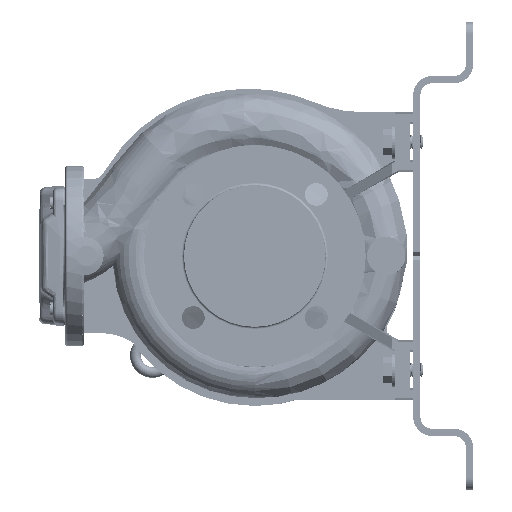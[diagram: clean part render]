
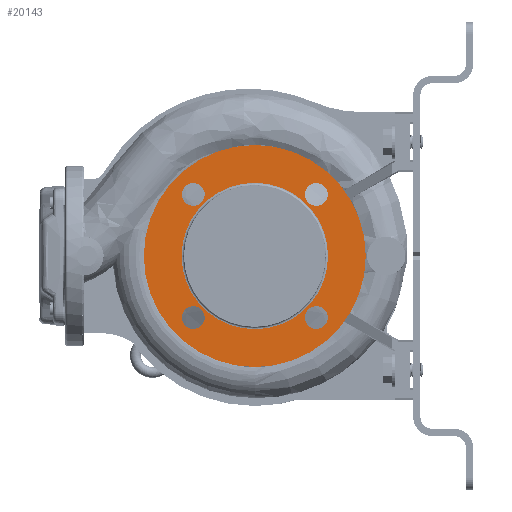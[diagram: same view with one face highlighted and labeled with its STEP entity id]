
A CAD part, left-side view. The second image highlights one B-rep face of the part: STEP entity #20143.
In plain terms, the highlighted planar face has unit normal (-1, 0, 0).
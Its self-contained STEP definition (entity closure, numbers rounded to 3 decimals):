
#2887 = CARTESIAN_POINT ( 'NONE',  ( -40.899, 68.322, 292.077 ) ) ;
#2975 = CIRCLE ( 'NONE', #170492, 9.5 ) ;
#3619 = CARTESIAN_POINT ( 'NONE',  ( -40.899, 170.852, 189.547 ) ) ;
#6053 = DIRECTION ( 'NONE',  ( 0., -1., 0. ) ) ;
#6591 = EDGE_CURVE ( 'NONE', #164121, #173780, #100389, .T. ) ;
#8356 = DIRECTION ( 'NONE',  ( 0., -1., 0. ) ) ;
#8513 = FACE_BOUND ( 'NONE', #196247, .T. ) ;
#10093 = AXIS2_PLACEMENT_3D ( 'NONE', #25578, #79040, #159918 ) ;
#12108 = VERTEX_POINT ( 'NONE', #113247 ) ;
#13082 = CARTESIAN_POINT ( 'NONE',  ( -40.899, 180.587, 240.812 ) ) ;
#14852 = CARTESIAN_POINT ( 'NONE',  ( -40.899, 58.822, 189.547 ) ) ;
#15524 = VERTEX_POINT ( 'NONE', #35803 ) ;
#16034 = CARTESIAN_POINT ( 'NONE',  ( -40.899, 77.822, 189.547 ) ) ;
#16410 = CIRCLE ( 'NONE', #121039, 9.5 ) ;
#20143 = ADVANCED_FACE ( 'NONE', ( #189915, #25976, #92604, #59826, #8513, #40244 ), #90457, .F. ) ;
#20319 = VERTEX_POINT ( 'NONE', #33525 ) ;
#20421 = AXIS2_PLACEMENT_3D ( 'NONE', #174432, #24736, #8356 ) ;
#22310 = CARTESIAN_POINT ( 'NONE',  ( -40.899, 119.587, 240.812 ) ) ;
#24736 = DIRECTION ( 'NONE',  ( -1., 0., 0. ) ) ;
#25578 = CARTESIAN_POINT ( 'NONE',  ( -40.899, 170.852, 189.547 ) ) ;
#25976 = FACE_BOUND ( 'NONE', #98166, .T. ) ;
#28773 = CIRCLE ( 'NONE', #109042, 9.5 ) ;
#31329 = AXIS2_PLACEMENT_3D ( 'NONE', #64214, #130829, #114455 ) ;
#31949 = EDGE_CURVE ( 'NONE', #173780, #164121, #215916, .T. ) ;
#33525 = CARTESIAN_POINT ( 'NONE',  ( -40.899, 180.352, 292.077 ) ) ;
#34694 = EDGE_CURVE ( 'NONE', #35746, #181902, #132286, .T. ) ;
#35746 = VERTEX_POINT ( 'NONE', #77346 ) ;
#35803 = CARTESIAN_POINT ( 'NONE',  ( -40.899, 212.087, 240.812 ) ) ;
#36400 = ORIENTED_EDGE ( 'NONE', *, *, #135770, .T. ) ;
#37444 = EDGE_CURVE ( 'NONE', #44742, #78667, #2975, .T. ) ;
#39820 = CARTESIAN_POINT ( 'NONE',  ( -40.899, 68.322, 189.547 ) ) ;
#40244 = FACE_OUTER_BOUND ( 'NONE', #123980, .T. ) ;
#42548 = CIRCLE ( 'NONE', #196068, 61. ) ;
#42620 = VERTEX_POINT ( 'NONE', #84342 ) ;
#43445 = DIRECTION ( 'NONE',  ( 1., 0., 0. ) ) ;
#44742 = VERTEX_POINT ( 'NONE', #16034 ) ;
#48774 = CIRCLE ( 'NONE', #80234, 9.5 ) ;
#51209 = EDGE_CURVE ( 'NONE', #113506, #12108, #28773, .T. ) ;
#51932 = EDGE_CURVE ( 'NONE', #20319, #42620, #189417, .T. ) ;
#51948 = AXIS2_PLACEMENT_3D ( 'NONE', #179932, #43445, #164619 ) ;
#53253 = DIRECTION ( 'NONE',  ( 0., -1., 0. ) ) ;
#57222 = CARTESIAN_POINT ( 'NONE',  ( -40.899, 161.352, 189.547 ) ) ;
#58756 = CIRCLE ( 'NONE', #20421, 92.5 ) ;
#59826 = FACE_BOUND ( 'NONE', #97763, .T. ) ;
#61109 = CARTESIAN_POINT ( 'NONE',  ( -40.899, 180.352, 189.547 ) ) ;
#64214 = CARTESIAN_POINT ( 'NONE',  ( -40.899, 119.587, 240.812 ) ) ;
#65212 = CARTESIAN_POINT ( 'NONE',  ( -40.899, 68.322, 292.077 ) ) ;
#69402 = CARTESIAN_POINT ( 'NONE',  ( -40.899, 68.322, 189.547 ) ) ;
#70501 = DIRECTION ( 'NONE',  ( -1., 0., 0. ) ) ;
#72581 = EDGE_CURVE ( 'NONE', #78667, #44742, #16410, .T. ) ;
#72646 = DIRECTION ( 'NONE',  ( 0., 1., 0. ) ) ;
#73865 = DIRECTION ( 'NONE',  ( -1., 0., 0. ) ) ;
#76084 = AXIS2_PLACEMENT_3D ( 'NONE', #3619, #157595, #104110 ) ;
#77346 = CARTESIAN_POINT ( 'NONE',  ( -40.899, 58.587, 240.812 ) ) ;
#78341 = AXIS2_PLACEMENT_3D ( 'NONE', #65212, #80532, #79446 ) ;
#78667 = VERTEX_POINT ( 'NONE', #14852 ) ;
#79040 = DIRECTION ( 'NONE',  ( -1., 0., 0. ) ) ;
#79446 = DIRECTION ( 'NONE',  ( 0., 0., -1. ) ) ;
#80069 = CIRCLE ( 'NONE', #31329, 92.5 ) ;
#80234 = AXIS2_PLACEMENT_3D ( 'NONE', #102250, #89070, #6053 ) ;
#80532 = DIRECTION ( 'NONE',  ( -1., 0., 0. ) ) ;
#81678 = ORIENTED_EDGE ( 'NONE', *, *, #31949, .F. ) ;
#82696 = ORIENTED_EDGE ( 'NONE', *, *, #37444, .F. ) ;
#84342 = CARTESIAN_POINT ( 'NONE',  ( -40.899, 161.352, 292.077 ) ) ;
#84890 = ORIENTED_EDGE ( 'NONE', *, *, #120843, .F. ) ;
#85410 = ORIENTED_EDGE ( 'NONE', *, *, #51932, .F. ) ;
#89070 = DIRECTION ( 'NONE',  ( -1., 0., 0. ) ) ;
#90457 = PLANE ( 'NONE',  #51948 ) ;
#92058 = ORIENTED_EDGE ( 'NONE', *, *, #214286, .F. ) ;
#92604 = FACE_BOUND ( 'NONE', #198322, .T. ) ;
#97763 = EDGE_LOOP ( 'NONE', ( #92058, #85410 ) ) ;
#98166 = EDGE_LOOP ( 'NONE', ( #134515, #82696 ) ) ;
#100389 = CIRCLE ( 'NONE', #76084, 9.5 ) ;
#102250 = CARTESIAN_POINT ( 'NONE',  ( -40.899, 170.852, 292.077 ) ) ;
#104110 = DIRECTION ( 'NONE',  ( 0., 0., 1. ) ) ;
#105989 = VERTEX_POINT ( 'NONE', #157955 ) ;
#107500 = DIRECTION ( 'NONE',  ( -1., 0., 0. ) ) ;
#109042 = AXIS2_PLACEMENT_3D ( 'NONE', #2887, #73865, #186494 ) ;
#113247 = CARTESIAN_POINT ( 'NONE',  ( -40.899, 77.822, 292.077 ) ) ;
#113506 = VERTEX_POINT ( 'NONE', #163643 ) ;
#113549 = EDGE_CURVE ( 'NONE', #105989, #15524, #80069, .T. ) ;
#114455 = DIRECTION ( 'NONE',  ( 0., -1., 0. ) ) ;
#115714 = ORIENTED_EDGE ( 'NONE', *, *, #51209, .F. ) ;
#116368 = ORIENTED_EDGE ( 'NONE', *, *, #6591, .F. ) ;
#120843 = EDGE_CURVE ( 'NONE', #12108, #113506, #172556, .T. ) ;
#121039 = AXIS2_PLACEMENT_3D ( 'NONE', #69402, #70501, #72646 ) ;
#123056 = AXIS2_PLACEMENT_3D ( 'NONE', #131311, #133483, #196992 ) ;
#123980 = EDGE_LOOP ( 'NONE', ( #151216, #36400 ) ) ;
#130829 = DIRECTION ( 'NONE',  ( -1., 0., 0. ) ) ;
#131311 = CARTESIAN_POINT ( 'NONE',  ( -40.899, 170.852, 292.077 ) ) ;
#132286 = CIRCLE ( 'NONE', #174317, 61. ) ;
#133483 = DIRECTION ( 'NONE',  ( -1., 0., 0. ) ) ;
#134515 = ORIENTED_EDGE ( 'NONE', *, *, #72581, .F. ) ;
#135770 = EDGE_CURVE ( 'NONE', #15524, #105989, #58756, .T. ) ;
#142498 = ORIENTED_EDGE ( 'NONE', *, *, #179350, .F. ) ;
#151216 = ORIENTED_EDGE ( 'NONE', *, *, #113549, .T. ) ;
#157595 = DIRECTION ( 'NONE',  ( -1., 0., 0. ) ) ;
#157710 = DIRECTION ( 'NONE',  ( 0., -1., 0. ) ) ;
#157955 = CARTESIAN_POINT ( 'NONE',  ( -40.899, 27.087, 240.812 ) ) ;
#159918 = DIRECTION ( 'NONE',  ( 0., 0., 1. ) ) ;
#163643 = CARTESIAN_POINT ( 'NONE',  ( -40.899, 58.822, 292.077 ) ) ;
#164121 = VERTEX_POINT ( 'NONE', #57222 ) ;
#164619 = DIRECTION ( 'NONE',  ( 0., 1., 0. ) ) ;
#168435 = EDGE_LOOP ( 'NONE', ( #115714, #84890 ) ) ;
#170492 = AXIS2_PLACEMENT_3D ( 'NONE', #39820, #107500, #174154 ) ;
#172556 = CIRCLE ( 'NONE', #78341, 9.5 ) ;
#173780 = VERTEX_POINT ( 'NONE', #61109 ) ;
#174154 = DIRECTION ( 'NONE',  ( 0., 1., 0. ) ) ;
#174317 = AXIS2_PLACEMENT_3D ( 'NONE', #198689, #203028, #53253 ) ;
#174432 = CARTESIAN_POINT ( 'NONE',  ( -40.899, 119.587, 240.812 ) ) ;
#178769 = ORIENTED_EDGE ( 'NONE', *, *, #34694, .F. ) ;
#179350 = EDGE_CURVE ( 'NONE', #181902, #35746, #42548, .T. ) ;
#179932 = CARTESIAN_POINT ( 'NONE',  ( -40.899, 180.587, 240.812 ) ) ;
#181902 = VERTEX_POINT ( 'NONE', #13082 ) ;
#186494 = DIRECTION ( 'NONE',  ( 0., 0., -1. ) ) ;
#188402 = DIRECTION ( 'NONE',  ( -1., 0., 0. ) ) ;
#189417 = CIRCLE ( 'NONE', #123056, 9.5 ) ;
#189915 = FACE_BOUND ( 'NONE', #168435, .T. ) ;
#196068 = AXIS2_PLACEMENT_3D ( 'NONE', #22310, #188402, #157710 ) ;
#196247 = EDGE_LOOP ( 'NONE', ( #178769, #142498 ) ) ;
#196992 = DIRECTION ( 'NONE',  ( 0., -1., 0. ) ) ;
#198322 = EDGE_LOOP ( 'NONE', ( #116368, #81678 ) ) ;
#198689 = CARTESIAN_POINT ( 'NONE',  ( -40.899, 119.587, 240.812 ) ) ;
#203028 = DIRECTION ( 'NONE',  ( -1., 0., 0. ) ) ;
#214286 = EDGE_CURVE ( 'NONE', #42620, #20319, #48774, .T. ) ;
#215916 = CIRCLE ( 'NONE', #10093, 9.5 ) ;
